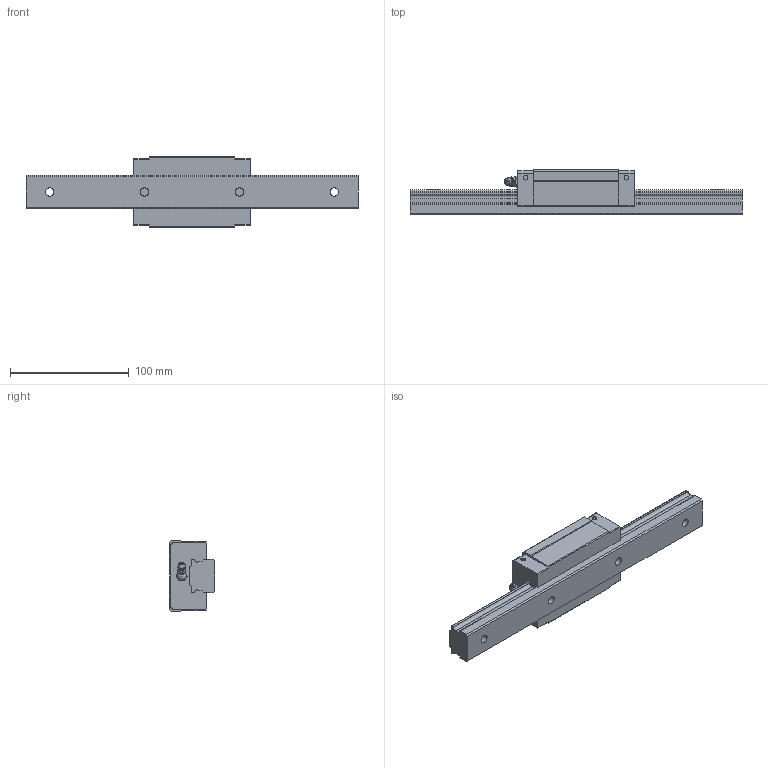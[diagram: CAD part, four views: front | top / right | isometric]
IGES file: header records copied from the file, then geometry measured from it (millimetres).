
Start section: Data from Parasolid IGES Translator 26.0.171, Copyright(c) 2006 Siemens PLM Software. All Rights Reserved.
Global section: file name: SVR30R1SS-280L_G20_0_B-M6F_91_0_0_0_1.igs; native system: By Siemens PLM Incorporated; preprocessor: XPlus GENERIC/IGES 26.0.171; author: Noname; organization: Noname; date: 20240517.070607; units: millimetre
Bounding box: 280 x 38 x 60 mm (x, y, z)
Surface area: 55989.9 mm2 (no closed solid volume)
Topology: 0 solids, 0 shells, 177 faces, 968 edges, 936 vertices
Faces by surface type: extrusion 92, revolution 85
